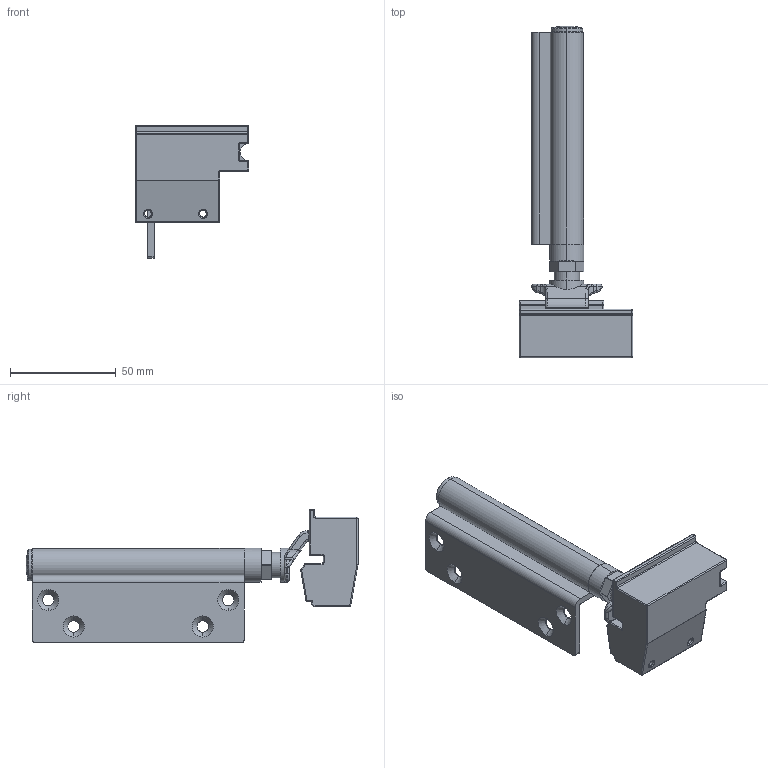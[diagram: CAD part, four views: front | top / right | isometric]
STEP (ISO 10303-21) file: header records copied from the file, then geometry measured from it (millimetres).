
FILE_DESCRIPTION (( 'STEP AP214' ), '1' );
FILE_NAME ('F3 Bottom Left Pivot - Closed 05Jul2024.STEP', '2024-07-05T01:13:30', ( '' ), ( '' ), 'SwSTEP 2.0', 'SolidWorks 2023', '' );
FILE_SCHEMA (( 'AUTOMOTIVE_DESIGN' ));
Length unit declared in the file: millimetre
Products named in the file (4): Left pivot body^F3 Bottom Left Pivot; Hinge Cap^F3 Bottom Left Pivot; Offset Flap^F3 Bottom Left Pivot; F3 Bottom Left Pivot - Closed 05Jul2024
Assembly tree (3 placements, depth 2):
  F3 Bottom Left Pivot - Closed 05Jul2024
    Left pivot body^F3 Bottom Left Pivot
    Offset Flap^F3 Bottom Left Pivot
    Hinge Cap^F3 Bottom Left Pivot
Bounding box: 53.6 x 156.8 x 62.7 mm (x, y, z)
Volume: 78984.4 mm3; surface area: 31345.1 mm2
Topology: 3 solids, 3 shells, 303 faces, 722 edges, 407 vertices
Faces by surface type: cylinder 127, plane 79, torus 30, sphere 29, bspline 26, cone 12
Entity records: 10356 total; most frequent: CARTESIAN_POINT 3429, DIRECTION 1503, ORIENTED_EDGE 1398, EDGE_CURVE 699, AXIS2_PLACEMENT_3D 593, VERTEX_POINT 405, EDGE_LOOP 320, VECTOR 317
